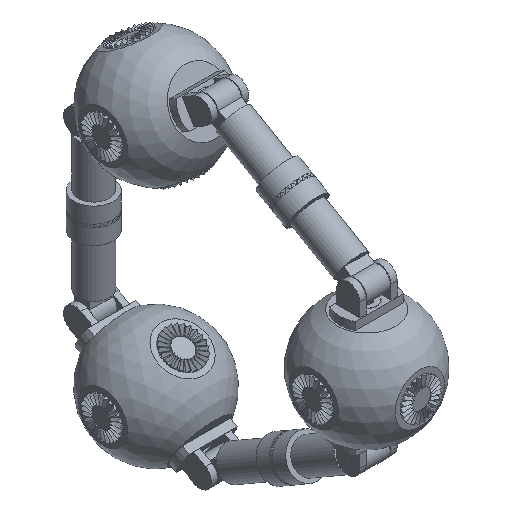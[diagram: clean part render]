
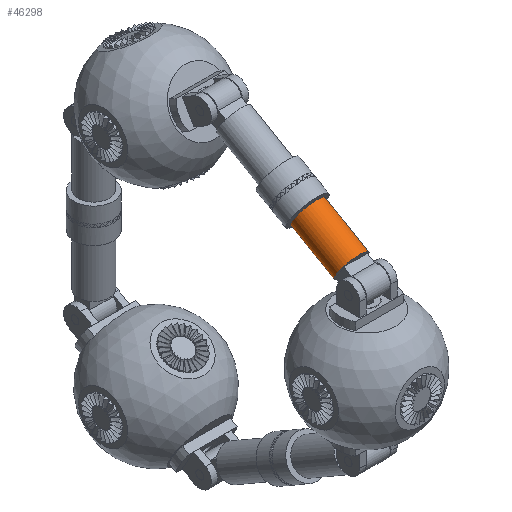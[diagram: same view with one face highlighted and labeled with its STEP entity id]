
A CAD part, isometric view. The second image highlights one B-rep face of the part: STEP entity #46298.
In plain terms, the highlighted cylindrical face has radius 4 mm (diameter 8 mm), a full revolution.
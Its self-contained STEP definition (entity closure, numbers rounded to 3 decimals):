
#46169 = PLANE('',#46170);
#46170 = AXIS2_PLACEMENT_3D('',#46171,#46172,#46173);
#46171 = CARTESIAN_POINT('',(0.,3.897,20.75));
#46172 = DIRECTION('',(0.,0.866,0.5));
#46173 = DIRECTION('',(1.,0.,0.));
#46204 = EDGE_CURVE('',#46205,#46205,#46207,.T.);
#46205 = VERTEX_POINT('',#46206);
#46206 = CARTESIAN_POINT('',(4.,3.897,20.75));
#46207 = SURFACE_CURVE('',#46208,(#46213,#46220),.PCURVE_S1.);
#46208 = CIRCLE('',#46209,4.);
#46209 = AXIS2_PLACEMENT_3D('',#46210,#46211,#46212);
#46210 = CARTESIAN_POINT('',(0.,3.897,20.75));
#46211 = DIRECTION('',(-0.,0.866,0.5));
#46212 = DIRECTION('',(1.,0.,0.));
#46213 = PCURVE('',#46169,#46214);
#46214 = DEFINITIONAL_REPRESENTATION('',(#46215),#46219);
#46215 = CIRCLE('',#46216,4.);
#46216 = AXIS2_PLACEMENT_2D('',#46217,#46218);
#46217 = CARTESIAN_POINT('',(0.,0.));
#46218 = DIRECTION('',(1.,0.));
#46219 = ( GEOMETRIC_REPRESENTATION_CONTEXT(2) 
PARAMETRIC_REPRESENTATION_CONTEXT() REPRESENTATION_CONTEXT('2D SPACE',''
  ) );
#46220 = PCURVE('',#46221,#46226);
#46221 = CYLINDRICAL_SURFACE('',#46222,4.);
#46222 = AXIS2_PLACEMENT_3D('',#46223,#46224,#46225);
#46223 = CARTESIAN_POINT('',(0.,3.897,20.75));
#46224 = DIRECTION('',(-0.,-0.866,-0.5));
#46225 = DIRECTION('',(1.,0.,0.));
#46226 = DEFINITIONAL_REPRESENTATION('',(#46227),#46231);
#46227 = LINE('',#46228,#46229);
#46228 = CARTESIAN_POINT('',(-0.,0.));
#46229 = VECTOR('',#46230,1.);
#46230 = DIRECTION('',(-1.,0.));
#46231 = ( GEOMETRIC_REPRESENTATION_CONTEXT(2) 
PARAMETRIC_REPRESENTATION_CONTEXT() REPRESENTATION_CONTEXT('2D SPACE',''
  ) );
#46298 = ADVANCED_FACE('',(#46299),#46221,.T.);
#46299 = FACE_BOUND('',#46300,.F.);
#46300 = EDGE_LOOP('',(#46301,#46324,#46351,#46352));
#46301 = ORIENTED_EDGE('',*,*,#46302,.T.);
#46302 = EDGE_CURVE('',#46205,#46303,#46305,.T.);
#46303 = VERTEX_POINT('',#46304);
#46304 = CARTESIAN_POINT('',(4.,15.069,27.2));
#46305 = SEAM_CURVE('',#46306,(#46310,#46317),.PCURVE_S1.);
#46306 = LINE('',#46307,#46308);
#46307 = CARTESIAN_POINT('',(4.,3.897,20.75));
#46308 = VECTOR('',#46309,1.);
#46309 = DIRECTION('',(0.,0.866,0.5));
#46310 = PCURVE('',#46221,#46311);
#46311 = DEFINITIONAL_REPRESENTATION('',(#46312),#46316);
#46312 = LINE('',#46313,#46314);
#46313 = CARTESIAN_POINT('',(-0.,0.));
#46314 = VECTOR('',#46315,1.);
#46315 = DIRECTION('',(-0.,-1.));
#46316 = ( GEOMETRIC_REPRESENTATION_CONTEXT(2) 
PARAMETRIC_REPRESENTATION_CONTEXT() REPRESENTATION_CONTEXT('2D SPACE',''
  ) );
#46317 = PCURVE('',#46221,#46318);
#46318 = DEFINITIONAL_REPRESENTATION('',(#46319),#46323);
#46319 = LINE('',#46320,#46321);
#46320 = CARTESIAN_POINT('',(-6.283,0.));
#46321 = VECTOR('',#46322,1.);
#46322 = DIRECTION('',(-0.,-1.));
#46323 = ( GEOMETRIC_REPRESENTATION_CONTEXT(2) 
PARAMETRIC_REPRESENTATION_CONTEXT() REPRESENTATION_CONTEXT('2D SPACE',''
  ) );
#46324 = ORIENTED_EDGE('',*,*,#46325,.T.);
#46325 = EDGE_CURVE('',#46303,#46303,#46326,.T.);
#46326 = SURFACE_CURVE('',#46327,(#46332,#46339),.PCURVE_S1.);
#46327 = CIRCLE('',#46328,4.);
#46328 = AXIS2_PLACEMENT_3D('',#46329,#46330,#46331);
#46329 = CARTESIAN_POINT('',(0.,15.069,27.2));
#46330 = DIRECTION('',(-0.,0.866,0.5));
#46331 = DIRECTION('',(1.,0.,0.));
#46332 = PCURVE('',#46221,#46333);
#46333 = DEFINITIONAL_REPRESENTATION('',(#46334),#46338);
#46334 = LINE('',#46335,#46336);
#46335 = CARTESIAN_POINT('',(-0.,-12.9));
#46336 = VECTOR('',#46337,1.);
#46337 = DIRECTION('',(-1.,0.));
#46338 = ( GEOMETRIC_REPRESENTATION_CONTEXT(2) 
PARAMETRIC_REPRESENTATION_CONTEXT() REPRESENTATION_CONTEXT('2D SPACE',''
  ) );
#46339 = PCURVE('',#46340,#46345);
#46340 = PLANE('',#46341);
#46341 = AXIS2_PLACEMENT_3D('',#46342,#46343,#46344);
#46342 = CARTESIAN_POINT('',(0.,15.069,27.2));
#46343 = DIRECTION('',(0.,0.866,0.5));
#46344 = DIRECTION('',(1.,0.,0.));
#46345 = DEFINITIONAL_REPRESENTATION('',(#46346),#46350);
#46346 = CIRCLE('',#46347,4.);
#46347 = AXIS2_PLACEMENT_2D('',#46348,#46349);
#46348 = CARTESIAN_POINT('',(0.,0.));
#46349 = DIRECTION('',(1.,0.));
#46350 = ( GEOMETRIC_REPRESENTATION_CONTEXT(2) 
PARAMETRIC_REPRESENTATION_CONTEXT() REPRESENTATION_CONTEXT('2D SPACE',''
  ) );
#46351 = ORIENTED_EDGE('',*,*,#46302,.F.);
#46352 = ORIENTED_EDGE('',*,*,#46204,.F.);
